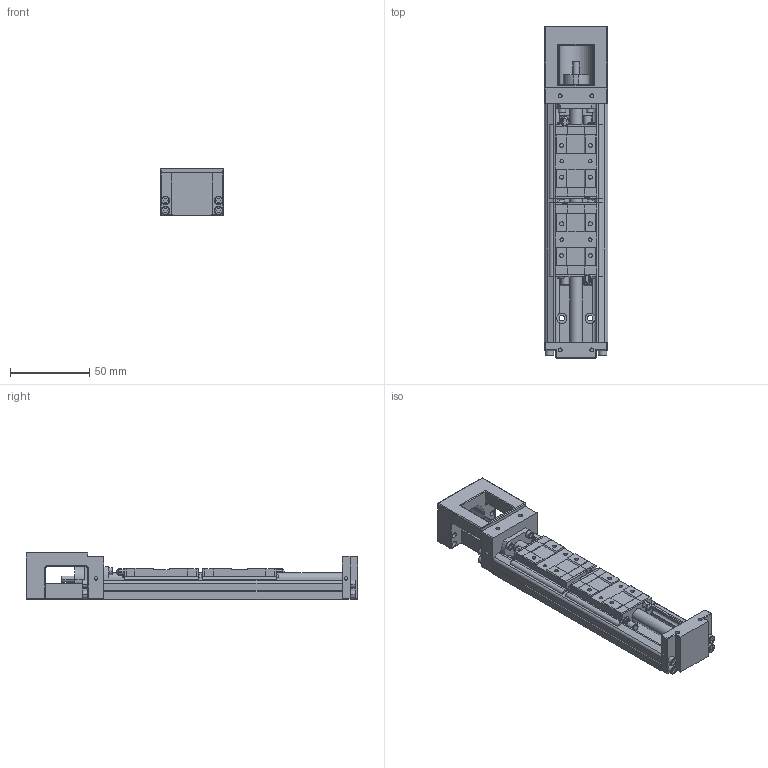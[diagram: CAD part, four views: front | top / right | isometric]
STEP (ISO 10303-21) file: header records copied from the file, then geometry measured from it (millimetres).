
FILE_DESCRIPTION(('no description'),'unknown implementation level');
FILE_NAME('KK4001P150A2F0000_FILE_9.stp',' ',('HIWIN GmbH'),('CADClick - KiM GmbH - www.kimweb.de'),'unknown preprocess','ACIS','unknown authorization');
FILE_SCHEMA(('automotive_design'));
Length unit declared in the file: millimetre
Products named in the file (3): KK4001P150A2F0000_FILE_1; KK40_FILE; KK4001P150A2F0000_FILE
Bounding box: 40 x 209 x 30 mm (x, y, z)
Volume: 119166.5 mm3; surface area: 53789.3 mm2
Topology: 3 solids, 19 shells, 1128 faces, 2894 edges, 1854 vertices
Faces by surface type: plane 704, cylinder 360, torus 56, sphere 8
Entity records: 67966 total; most frequent: CARTESIAN_POINT 6983, DIRECTION 6002, STYLED_ITEM 5875, PRESENTATION_STYLE_ASSIGNMENT 5875, COLOUR_RGB 5875, ORIENTED_EDGE 5780, EDGE_CURVE 2890, CURVE_STYLE 2890
